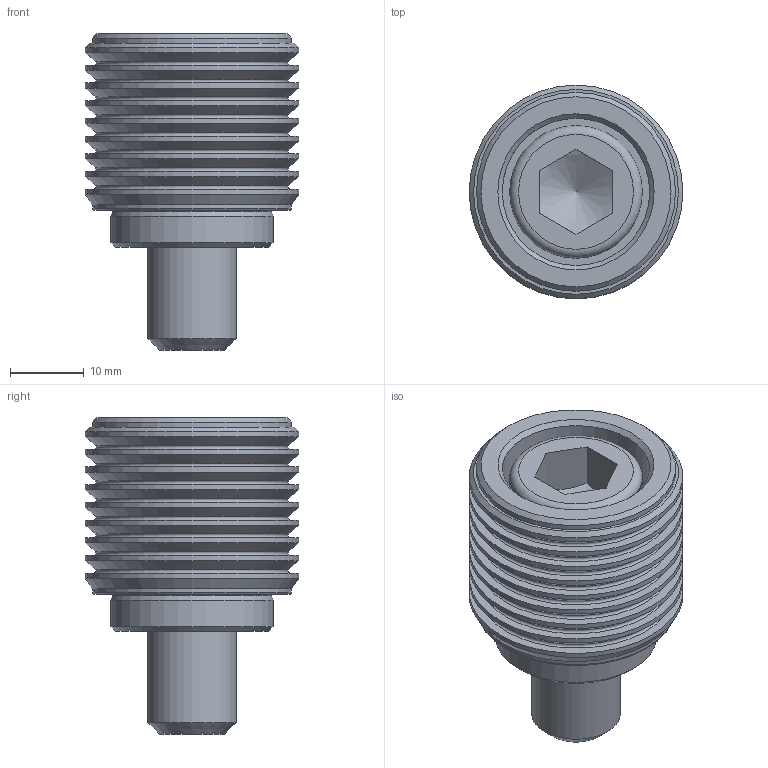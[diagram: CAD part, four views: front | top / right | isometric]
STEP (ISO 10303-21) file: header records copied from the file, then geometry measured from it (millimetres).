
FILE_DESCRIPTION(('STEP AP214'), '1');
FILE_NAME('BB.VS.100.51.024', '', ('UNSPECIFIED'), ('UNSPECIFIED'), 'C3D Converter', 'C3D Toolkit', '');
FILE_SCHEMA(('AUTOMOTIVE_DESIGN { 1 0 10303 214 3 1 1}'));
Length unit declared in the file: millimetre
Products named in the file (1): BB.VS.100.51.024 СБ
Bounding box: 29 x 29 x 43 mm (x, y, z)
Volume: 15859.5 mm3; surface area: 8482.5 mm2
Topology: 1 solids, 1 shells, 69 faces, 129 edges, 76 vertices
Faces by surface type: plane 22, cone 19, cylinder 16, torus 12
Full cylindrical faces by diameter (mm): 12 x1, 13 x1, 18 x1, 20 x1, 22 x1, 27 x2, 29 x9
Entity records: 2301 total; most frequent: CARTESIAN_POINT 493, DIRECTION 276, ORIENTED_EDGE 162, AXIS2_PLACEMENT_3D 132, EDGE_LOOP 130, FACE_OUTER_BOUND 90, EDGE_CURVE 81, VERTEX_POINT 75
